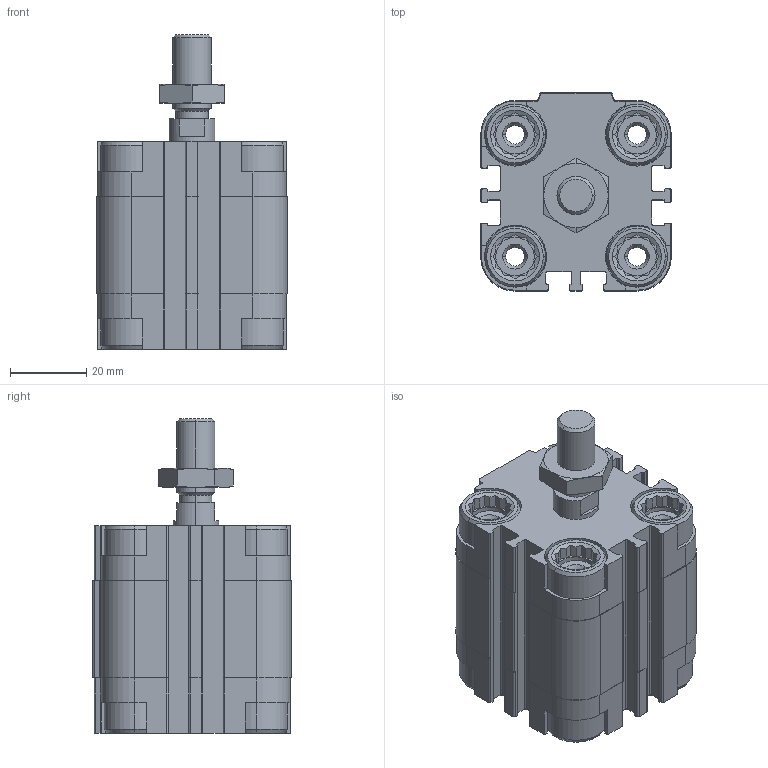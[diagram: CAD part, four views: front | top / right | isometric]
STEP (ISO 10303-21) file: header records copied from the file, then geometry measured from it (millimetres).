
FILE_DESCRIPTION (( 'STEP AP203' ), '1' );
FILE_NAME ('CDVU32-10.STEP', '2020-03-19T11:32:37', ( '' ), ( '' ), 'SwSTEP 2.0', 'SolidWorks 2019', '' );
FILE_SCHEMA (( 'CONFIG_CONTROL_DESIGN' ));
Length unit declared in the file: millimetre
Products named in the file (1): CDVU32-10
Bounding box: 50 x 52 x 82.5 mm (x, y, z)
Volume: 107210.8 mm3; surface area: 36674.3 mm2
Topology: 3 solids, 3 shells, 727 faces, 1932 edges, 1246 vertices
Faces by surface type: plane 425, cylinder 232, cone 70
Entity records: 22975 total; most frequent: CARTESIAN_POINT 4762, ORIENTED_EDGE 3856, DIRECTION 3712, EDGE_CURVE 1928, AXIS2_PLACEMENT_3D 1260, VERTEX_POINT 1246, LINE 1192, VECTOR 1192
